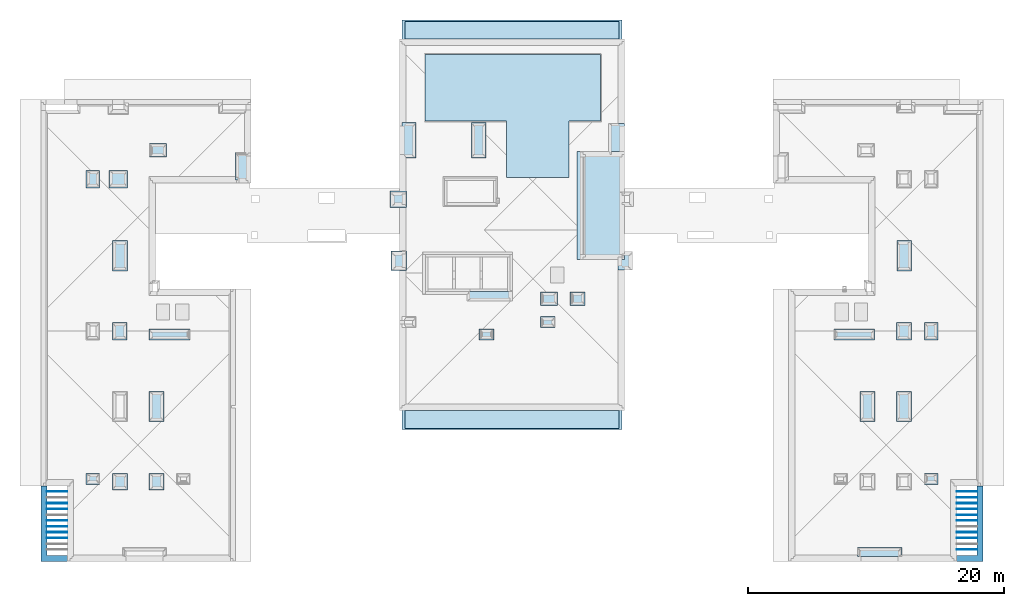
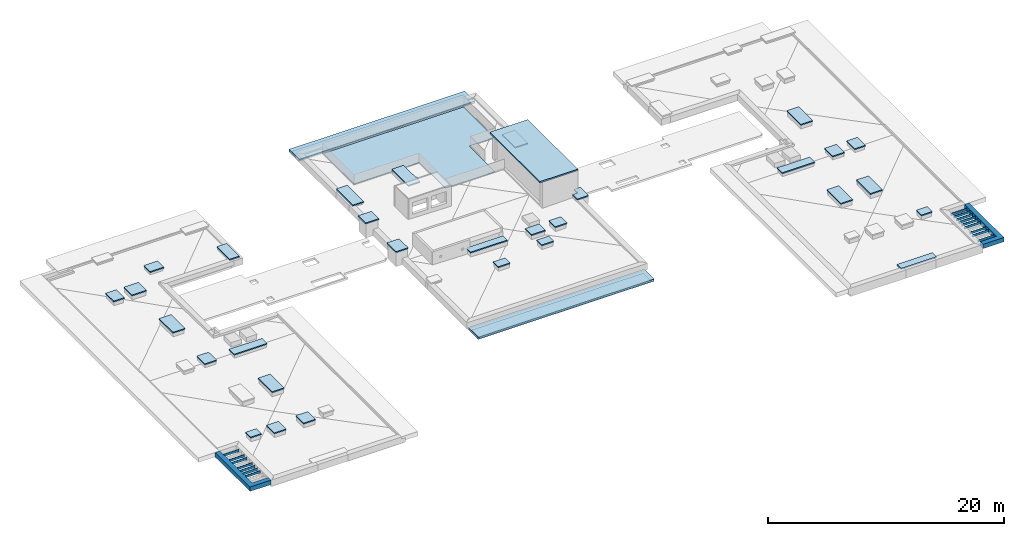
# One storey, part 1 of 16: 38 slabs, 16 beams.
"""IFC2X3 building model written with IfcOpenShell, lengths in millimetres."""

import ifcopenshell
import ifcopenshell.guid

model = None  # the IFC model being written
_history = None  # IfcOwnerHistory: only IFC2X3 demands one
_inside = {}  # id of a spatial element -> (the spatial element, [elements in it])
_under = {}  # id of a project, library or spatial element -> (it, [spatial elements below it])
_declared = {}  # id of a project -> (the project, [libraries it declares])
_typed = {}  # id of a type object -> (the type object, [elements of that type])
_made_of = {}  # id of a material, layer set ... -> (it, [elements and type objects made of it])


def new_model(schema):
    """Start an empty IFC model of exactly this schema.

    Asked for "IFC4X3", IfcOpenShell would pick the latest addendum, in which some entities
    have other attributes; the version numbers below select the first issue.
    IFC2X3 requires an IfcOwnerHistory on every rooted entity: one is made here for all.
    """
    global model, _history
    if schema == "IFC4X3":
        model = ifcopenshell.file(schema_version=(4, 3, 0, 0))
    else:
        model = ifcopenshell.file(schema=schema)
    _inside.clear()
    _under.clear()
    _declared.clear()
    _typed.clear()
    _made_of.clear()
    _history = None
    if model.schema == "IFC2X3":
        org = make("IfcOrganization", Name="unknown")
        user = make(
            "IfcPersonAndOrganization",
            ThePerson=make("IfcPerson", FamilyName="unknown"),
            TheOrganization=org,
        )
        app = make(
            "IfcApplication",
            ApplicationDeveloper=org,
            Version="unknown",
            ApplicationFullName="unknown",
            ApplicationIdentifier="unknown",
        )
        _history = make(
            "IfcOwnerHistory",
            OwningUser=user,
            OwningApplication=app,
            ChangeAction="ADDED",
            CreationDate=0,
        )
    return model


def make(cls, **values):
    """One entity of the class cls with the attributes given. An attribute that is None is left unset."""
    return model.create_entity(
        cls, **{name: value for name, value in values.items() if value is not None}
    )


def entity(cls, *values):
    """Any entity or typed value of the class cls, its attributes in the order of the schema. None: left unset."""
    e = model.create_entity(cls)
    for i, value in enumerate(values):
        if value is not None:
            e[i] = value
    return e


def rooted(cls, **values):
    """An entity with a GlobalId (a new one), such as an element, a storey or a relation."""
    return make(cls, GlobalId=ifcopenshell.guid.new(), OwnerHistory=_history, **values)


def si_unit(unit_type, name, prefix=None):
    """IfcSIUnit, for example si_unit("LENGTHUNIT", "METRE", prefix="MILLI")."""
    return make("IfcSIUnit", UnitType=unit_type, Prefix=prefix, Name=name)


def converted_unit(unit_type, name, factor, base, dimensions=None, offset=None):
    """IfcConversionBasedUnit, such as the inch: factor (a typed value) times the base unit."""
    return make(
        "IfcConversionBasedUnit"
        if offset is None
        else "IfcConversionBasedUnitWithOffset",
        ConversionOffset=offset,
        Dimensions=None
        if dimensions is None
        else entity("IfcDimensionalExponents", *dimensions),
        UnitType=unit_type,
        Name=name,
        ConversionFactor=make(
            "IfcMeasureWithUnit", ValueComponent=factor, UnitComponent=base
        ),
    )


def derived_unit(unit_type, elements):
    """IfcDerivedUnit: a product of units, each with its exponent."""
    return make(
        "IfcDerivedUnit",
        Elements=[
            make("IfcDerivedUnitElement", Unit=unit, Exponent=power)
            for unit, power in elements
        ],
        UnitType=unit_type,
    )


def money_unit(currency):
    """IfcMonetaryUnit."""
    return make("IfcMonetaryUnit", Currency=currency)


def assignment(units):
    """IfcUnitAssignment: the units of a project."""
    return None if units is None else make("IfcUnitAssignment", Units=units)


def point(xyz):
    """IfcCartesianPoint."""
    return None if xyz is None else make("IfcCartesianPoint", Coordinates=xyz)


def direction(xyz):
    """IfcDirection."""
    return None if xyz is None else make("IfcDirection", DirectionRatios=xyz)


def frame(location, z_axis=None, x_axis=None):
    """IfcAxis2Placement3D, a coordinate frame: its origin and axes. An axis left out is left unset."""
    return make(
        "IfcAxis2Placement3D",
        Location=point(location),
        Axis=direction(z_axis),
        RefDirection=direction(x_axis),
    )


def origin_with_axes():
    """The frame at (0, 0, 0) with the z axis (0, 0, 1) and the x axis (1, 0, 0) written out."""
    return frame((0.0, 0.0, 0.0), z_axis=(0.0, 0.0, 1.0), x_axis=(1.0, 0.0, 0.0))


def place(relative_to, where):
    """IfcLocalPlacement: puts the frame where relative to a parent placement (None: the world)."""
    return make(
        "IfcLocalPlacement", PlacementRelTo=relative_to, RelativePlacement=where
    )


def context(
    kind, dimensions, precision=None, world=None, true_north=None, identifier=None
):
    """IfcGeometricRepresentationContext, for example the 3D "Model" context."""
    return make(
        "IfcGeometricRepresentationContext",
        ContextIdentifier=identifier,
        ContextType=kind,
        CoordinateSpaceDimension=dimensions,
        Precision=precision,
        WorldCoordinateSystem=world,
        TrueNorth=true_north,
    )


def subcontext(parent, identifier, kind, view, scale=None):
    """IfcGeometricRepresentationSubContext, for example "Body" below "Model"."""
    return make(
        "IfcGeometricRepresentationSubContext",
        ContextIdentifier=identifier,
        ContextType=kind,
        ParentContext=parent,
        TargetScale=scale,
        TargetView=view,
    )


def project(units=None, contexts=None):
    """IfcProject with its units and contexts."""
    return rooted(
        "IfcProject",
        Name="project",
        RepresentationContexts=contexts,
        UnitsInContext=assignment(units),
    )


def spatial(cls, under=None, at=None, **own):
    """A site, building, storey or space (cls), placed at a placement, below another one or the project."""
    s = rooted(cls, ObjectPlacement=at, **own)
    if under is not None:
        _under.setdefault(under.id(), (under, []))[1].append(s)
    return s


def polyline(points):
    """IfcPolyline through the points."""
    return make("IfcPolyline", Points=[point(p) for p in points])


def outline(outer, holes=None, kind="AREA"):
    """IfcArbitraryClosedProfileDef: a profile drawn as a closed curve; with holes, ...WithVoids."""
    if holes is None:
        return make("IfcArbitraryClosedProfileDef", ProfileType=kind, OuterCurve=outer)
    return make(
        "IfcArbitraryProfileDefWithVoids",
        ProfileType=kind,
        OuterCurve=outer,
        InnerCurves=holes,
    )


def extrude(swept, where, along, depth):
    """IfcExtrudedAreaSolid: the profile swept, set in the frame where, extruded along a direction by depth."""
    return make(
        "IfcExtrudedAreaSolid",
        SweptArea=swept,
        Position=where,
        ExtrudedDirection=direction(along),
        Depth=depth,
    )


def faces_of(points, faces, orient=None, outer=None):
    """IfcFace entities. A face is a list of loops; a loop is a list of indices into points, from 0.

    orient and outer hold one flag for each loop. By default every Orientation is true, the
    first loop of a face is its IfcFaceOuterBound and the others are IfcFaceBound.
    """
    made = []
    for i, loops in enumerate(faces):
        bounds = []
        for j, loop in enumerate(loops):
            is_outer = j == 0 if outer is None else outer[i][j]
            bounds.append(
                make(
                    "IfcFaceOuterBound" if is_outer else "IfcFaceBound",
                    Bound=make("IfcPolyLoop", Polygon=[points[k] for k in loop]),
                    Orientation=True if orient is None else orient[i][j],
                )
            )
        made.append(make("IfcFace", Bounds=bounds))
    return made


def faceted_brep(points, faces, orient=None, outer=None, voids=None):
    """IfcFacetedBrep: a solid bounded by flat faces; with voids (closed shells), ...WithVoids."""
    shared = [point(p) for p in points]
    hull = make("IfcClosedShell", CfsFaces=faces_of(shared, faces, orient, outer))
    if voids is None:
        return make("IfcFacetedBrep", Outer=hull)
    return make(
        "IfcFacetedBrepWithVoids",
        Outer=hull,
        Voids=[
            make(cls, CfsFaces=faces_of(shared, fs, o, b)) for cls, fs, o, b in voids
        ],
    )


def shape(context_of_items, identifier, shape_type, items):
    """IfcShapeRepresentation: the items that make up one representation, for example the "Body"."""
    return make(
        "IfcShapeRepresentation",
        ContextOfItems=context_of_items,
        RepresentationIdentifier=identifier,
        RepresentationType=shape_type,
        Items=items,
    )


def material(Name=None, Category=None):
    """IfcMaterial."""
    return make("IfcMaterial", Name=Name, Category=Category)


def layer(
    of_material, thickness, ventilated=None, Name=None, Category=None, Priority=None
):
    """IfcMaterialLayer: one layer of a wall or slab, of a material (None: an air gap)."""
    return make(
        "IfcMaterialLayer",
        Material=of_material,
        LayerThickness=thickness,
        IsVentilated=ventilated,
        Name=Name,
        Category=Category,
        Priority=Priority,
    )


def layer_set(layers, Name=None):
    """IfcMaterialLayerSet."""
    return make("IfcMaterialLayerSet", MaterialLayers=layers, LayerSetName=Name)


def layer_usage(for_layer_set, set_direction, sense, offset, extent=None):
    """IfcMaterialLayerSetUsage: how a layer set lies in its element."""
    return make(
        "IfcMaterialLayerSetUsage",
        ForLayerSet=for_layer_set,
        LayerSetDirection=set_direction,
        DirectionSense=sense,
        OffsetFromReferenceLine=offset,
        ReferenceExtent=extent,
    )


def made_of(thing, what):
    """Note that an element or type object is made of a material, layer set ...; save() writes the relation."""
    if what is not None:
        _made_of.setdefault(what.id(), (what, []))[1].append(thing)
    return thing


def type_object(cls, material=None, **own):
    """A type object (cls), such as IfcWallType, which elements share."""
    return made_of(rooted(cls, **own), material)


def element(
    cls,
    number,
    at=None,
    inside=None,
    cuts=None,
    type_object=None,
    material=None,
    context=None,
    identifier="Body",
    shape_type=None,
    held_by="IfcProductDefinitionShape",
    body=None,
    shapes=None,
    **own,
):
    """One element of the class cls, such as IfcWall. Its Tag is "e" and its number.

    at: its placement. inside: the storey or other place that contains it. cuts: it is an
    opening in that element (IfcRelVoidsElement). A single representation is given by context,
    identifier, shape_type and body (its items); several are given by shapes. held_by: the class
    of the entity that holds the representations. save() writes the other relations.
    """
    e = rooted(cls, Tag="e%d" % number, ObjectPlacement=at, **own)
    if body is not None:
        shapes = [shape(context, identifier, shape_type, body)]
    if shapes is not None:
        e.Representation = make(held_by, Representations=shapes)
    if inside is not None:
        _inside.setdefault(inside.id(), (inside, []))[1].append(e)
    if cuts is not None:
        rooted(
            "IfcRelVoidsElement", RelatingBuildingElement=cuts, RelatedOpeningElement=e
        )
    if type_object is not None:
        _typed.setdefault(type_object.id(), (type_object, []))[1].append(e)
    return made_of(e, material)


def aggregate(whole, parts):
    """IfcRelAggregates: a whole, such as a stair, and the parts it consists of."""
    return rooted("IfcRelAggregates", RelatingObject=whole, RelatedObjects=parts)


def save(model, path):
    """Write the relations noted so far, then the file.

    IfcRelAggregates (storeys below a building ...), IfcRelContainedInSpatialStructure (elements
    in a storey), IfcRelDefinesByType, IfcRelAssociatesMaterial and IfcRelDeclares: one each for
    every whole, place, type object, material and project.
    """
    for whole, parts in _under.values():
        aggregate(whole, parts)
    for where, things in _inside.values():
        rooted(
            "IfcRelContainedInSpatialStructure",
            RelatedElements=things,
            RelatingStructure=where,
        )
    for kind, things in _typed.values():
        rooted("IfcRelDefinesByType", RelatedObjects=things, RelatingType=kind)
    for what, things in _made_of.values():
        rooted("IfcRelAssociatesMaterial", RelatedObjects=things, RelatingMaterial=what)
    for by, libraries in _declared.values():
        rooted("IfcRelDeclares", RelatingContext=by, RelatedDefinitions=libraries)
    model.write(path)


model = new_model("IFC2X3")

# Units and contexts
model_context = context("Model", 3, precision=0.01, world=origin_with_axes(), true_north=direction((0.34421633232, 0.938890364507)))
body_context = subcontext(model_context, "Body", "Model", "MODEL_VIEW")
ifc_project = project(units=[si_unit("LENGTHUNIT", "METRE", prefix="MILLI"), si_unit("AREAUNIT", "SQUARE_METRE"), si_unit("VOLUMEUNIT", "CUBIC_METRE"), converted_unit("PLANEANGLEUNIT", "DEGREE", entity("IfcPlaneAngleMeasure", 0.0174532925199), si_unit("PLANEANGLEUNIT", "RADIAN"), dimensions=[0, 0, 0, 0, 0, 0, 0]), si_unit("SOLIDANGLEUNIT", "STERADIAN"), money_unit("USD"), converted_unit("TIMEUNIT", "Year", entity("IfcTimeMeasure", 31556926.0), si_unit("TIMEUNIT", "SECOND"), dimensions=[0, 0, 1, 0, 0, 0, 0]), si_unit("MASSUNIT", "GRAM", prefix="KILO"), si_unit("THERMODYNAMICTEMPERATUREUNIT", "DEGREE_CELSIUS"), si_unit("LUMINOUSINTENSITYUNIT", "LUMEN"), si_unit("ENERGYUNIT", "JOULE", prefix="MEGA"), derived_unit("THERMALCONDUCTANCEUNIT", [(si_unit("POWERUNIT", "WATT"), 1), (si_unit("LENGTHUNIT", "METRE"), -1), (si_unit("THERMODYNAMICTEMPERATUREUNIT", "KELVIN"), -1)]), derived_unit("SPECIFICHEATCAPACITYUNIT", [(si_unit("ENERGYUNIT", "JOULE"), 1), (si_unit("MASSUNIT", "GRAM", prefix="KILO"), -1), (si_unit("THERMODYNAMICTEMPERATUREUNIT", "KELVIN"), -1)]), derived_unit("MASSDENSITYUNIT", [(si_unit("MASSUNIT", "GRAM", prefix="KILO"), 1), (si_unit("VOLUMEUNIT", "CUBIC_METRE"), -1)])], contexts=[model_context])

# Site, building, storey
site_placement = place(None, origin_with_axes())
site = spatial("IfcSite", under=ifc_project, at=site_placement, Name="USTRONIE MORSKIE", CompositionType="ELEMENT")
building_placement = place(site_placement, origin_with_axes())
building = spatial("IfcBuilding", under=site, at=building_placement, Name="Budynek", CompositionType="ELEMENT")
storey_placement = place(building_placement, frame((0.0, 0.0, 19000.0), z_axis=(0.0, 0.0, 1.0), x_axis=(1.0, 0.0, 0.0)))
storey = spatial("IfcBuildingStorey", under=building, at=storey_placement, Name="DACH", CompositionType="ELEMENT", Elevation=19000.0)

# Beams
ifc_material_1 = material(Name="Laminat")
beam_type_1 = type_object("IfcBeamType", Name="Laminat 50 x 250", PredefinedType="NOTDEFINED")
for number, where, z_axis, x_axis, name in (
    (1, (422617.920919, 713438.689058, 400.0), (0.0, 0.0, 1.0), (0.0, -1.0, 0.0), "B1"),
    (2, (422617.920919, 714347.029041, 400.0), (0.0, 0.0, 1.0), (0.0, -1.0, 0.0), "B1"),
    (3, (422617.920919, 712530.349074, 400.0), (0.0, 0.0, 1.0), (0.0, -1.0, 0.0), "B1"),
    (4, (422617.920919, 710713.669107, 400.0), (0.0, 0.0, 1.0), (0.0, -1.0, 0.0), "B1"),
    (5, (422617.920919, 709805.329123, 400.0), (0.0, 0.0, 1.0), (0.0, -1.0, 0.0), "B1"),
    (6, (422617.920919, 711167.839099, 400.0), (0.0, 0.0, 1.0), (0.0, -1.0, 0.0), "B1"),
    (7, (422617.920919, 712076.179082, 400.0), (0.0, 0.0, 1.0), (0.0, -1.0, 0.0), "B1"),
    (8, (422617.920919, 713892.859049, 400.0), (0.0, 0.0, 1.0), (0.0, -1.0, 0.0), "B1"),
    (9, (422617.920919, 712984.519066, 400.0), (0.0, 0.0, 1.0), (0.0, -1.0, 0.0), "B1"),
):
    element("IfcBeam", number, at=place(storey_placement, frame(where, z_axis=z_axis, x_axis=x_axis)), inside=storey, type_object=beam_type_1, material=ifc_material_1, Name=name, context=body_context, shape_type="Brep", body=[
        faceted_brep([(-25.0, 1600.0, 0.0), (-25.0, 1600.0, -250.0), (-25.0, 10.0000000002, -250.0), (-25.0, 10.0000000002, 0.0), (25.0, 1600.0, 0.0), (25.0, 1600.0, -250.0), (25.0, 10.0000000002, -250.0), (25.0, 10.0000000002, 0.0)], [[[0, 1, 2, 3]], [[0, 4, 5, 1]], [[1, 5, 6, 2]], [[2, 6, 7, 3]], [[4, 0, 3, 7]], [[5, 4, 7, 6]]]),
    ])
beam_type_2 = type_object("IfcBeamType", Name="Własny Profil 50 x 250", PredefinedType="NOTDEFINED")
for number, where, z_axis, x_axis, name in (
    (10, (353017.920919, 713438.689058, 400.0), (0.0, 0.0, 1.0), (0.0, 1.0, 0.0), "B1"),
    (11, (353017.920919, 711622.00909, 400.0), (0.0, 0.0, 1.0), (0.0, 1.0, 0.0), "B1"),
    (12, (353017.920919, 712984.519066, 400.0), (0.0, 0.0, 1.0), (0.0, 1.0, 0.0), "B1"),
    (13, (353017.920919, 710713.669107, 400.0), (0.0, 0.0, 1.0), (0.0, 1.0, 0.0), "B1"),
    (14, (353017.920919, 712076.179082, 400.0), (0.0, 0.0, 1.0), (0.0, 1.0, 0.0), "B1"),
    (15, (353017.920919, 714347.029041, 400.0), (0.0, 0.0, 1.0), (0.0, 1.0, 0.0), "B1"),
    (16, (353017.920919, 711167.839099, 400.0), (0.0, 0.0, 1.0), (0.0, 1.0, 0.0), "B1"),
):
    element("IfcBeam", number, at=place(storey_placement, frame(where, z_axis=z_axis, x_axis=x_axis)), inside=storey, type_object=beam_type_2, material=ifc_material_1, Name=name, context=body_context, shape_type="Brep", body=[
        faceted_brep([(25.0, 1600.0, 0.0), (-25.0, 1600.0, 0.0), (-25.0, 10.0000000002, 0.0), (25.0, 10.0000000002, 0.0), (25.0, 1600.0, -250.0), (-25.0, 1600.0, -250.0), (-25.0, 10.0000000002, -250.0), (25.0, 10.0000000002, -250.0)], [[[0, 1, 2, 3]], [[4, 5, 1, 0]], [[1, 5, 6, 2]], [[2, 6, 7, 3]], [[4, 0, 3, 7]], [[5, 4, 7, 6]]]),
    ])

# Slabs
ifc_material_2 = material(Name="Beton konstrukcyjny B25")
slab_type_1 = type_object("IfcSlabType", Name="Beton konstrukcyjny B25 120", PredefinedType="FLOOR")
slab_1_placement = place(storey_placement, frame((415037.920919, 719821.199036, 760.000001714), z_axis=(0.0, 0.0, 1.0), x_axis=(1.0, 0.0, 0.0)))
element("IfcSlab", 17, at=slab_1_placement, inside=storey, type_object=slab_type_1, material=ifc_material_2, Name="P3", PredefinedType="FLOOR", context=body_context, shape_type="Brep", body=[
    faceted_brep([(0.0, 0.0, 0.0), (0.0, 0.0, -120.0), (1180.00339275, 0.0, -120.0), (1180.00339275, 0.0, 0.0), (0.0, 2360.0, 0.0), (0.0, 2360.0, -120.0), (1180.00339275, 2360.0, -120.0), (1180.00339275, 2360.0, 0.0)], [[[0, 1, 2, 3]], [[4, 5, 1, 0]], [[2, 1, 5, 6]], [[3, 2, 6, 7]], [[4, 0, 3, 7]], [[7, 6, 5, 4]]]),
])
slab_2_placement = place(storey_placement, frame((417917.920942, 719821.199036, 760.000001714), z_axis=(0.0, 0.0, 1.0), x_axis=(1.0, 0.0, 0.0)))
element("IfcSlab", 18, at=slab_2_placement, inside=storey, type_object=slab_type_1, material=ifc_material_2, Name="P3", PredefinedType="FLOOR", context=body_context, shape_type="Brep", body=[
    faceted_brep([(0.0, 0.0, 0.0), (0.0, 0.0, -120.0), (1179.99997673, 0.0, -120.0), (1179.99997673, 0.0, 0.0), (0.0, 2360.0, 0.0), (0.0, 2360.0, -120.0), (1179.99997673, 2360.0, -120.0), (1179.99997673, 2360.0, 0.0)], [[[0, 1, 2, 3]], [[4, 5, 1, 0]], [[2, 1, 5, 6]], [[3, 2, 6, 7]], [[4, 0, 3, 7]], [[7, 6, 5, 4]]]),
])
slab_3_placement = place(storey_placement, frame((412997.920919, 727081.201317, 760.000001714), z_axis=(0.0, 0.0, 1.0), x_axis=(1.0, 0.0, 0.0)))
element("IfcSlab", 19, at=slab_3_placement, inside=storey, type_object=slab_type_1, material=ifc_material_2, Name="P3", PredefinedType="FLOOR", context=body_context, shape_type="Brep", body=[
    faceted_brep([(0.0, 0.0, 0.0), (0.0, 0.0, -120.0), (0.0, -860.008836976, -120.0), (0.0, -860.008836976, 0.0), (3199.99841571, 0.0, 0.0), (3199.99841571, 0.0, -120.0), (3199.99841571, -860.008836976, -120.0), (3199.99841571, -860.008836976, 0.0)], [[[0, 1, 2, 3]], [[4, 5, 1, 0]], [[2, 1, 5, 6]], [[3, 2, 6, 7]], [[4, 0, 3, 7]], [[7, 6, 5, 4]]]),
])
slab_4_placement = place(storey_placement, frame((417937.920942, 731621.199036, 760.000001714), z_axis=(0.0, 0.0, 1.0), x_axis=(1.0, 0.0, 0.0)))
element("IfcSlab", 20, at=slab_4_placement, inside=storey, type_object=slab_type_1, material=ifc_material_2, Name="P3", PredefinedType="FLOOR", context=body_context, shape_type="Brep", body=[
    faceted_brep([(0.0, 0.0, 0.0), (0.0, 0.0, -120.0), (1159.99997673, 0.0, -120.0), (1159.99997673, 0.0, 0.0), (0.0, 2360.0, 0.0), (0.0, 2360.0, -120.0), (1159.99997673, 2360.0, -120.0), (1159.99997673, 2360.0, 0.0)], [[[0, 1, 2, 3]], [[4, 5, 1, 0]], [[2, 1, 5, 6]], [[3, 2, 6, 7]], [[4, 0, 3, 7]], [[7, 6, 5, 4]]]),
])
slab_5_placement = place(storey_placement, frame((417917.920919, 727581.19248, 760.000001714), z_axis=(0.0, 0.0, 1.0), x_axis=(1.0, 0.0, 0.0)))
element("IfcSlab", 21, at=slab_5_placement, inside=storey, type_object=slab_type_1, material=ifc_material_2, Name="P3", PredefinedType="FLOOR", context=body_context, shape_type="Brep", body=[
    faceted_brep([(0.0, 0.0, 0.0), (0.0, 0.0, -120.0), (0.0, -1360.0, -120.0), (0.0, -1360.0, 0.0), (1180.0, 0.0, 0.0), (1180.0, 0.0, -120.0), (1180.0, -1360.0, -120.0), (1180.0, -1360.0, 0.0)], [[[0, 1, 2, 3]], [[4, 5, 1, 0]], [[2, 1, 5, 6]], [[3, 2, 6, 7]], [[4, 0, 3, 7]], [[7, 6, 5, 4]]]),
])
slab_6_placement = place(storey_placement, frame((420077.920914, 726221.199036, 760.000001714), z_axis=(0.0, 0.0, 1.0), x_axis=(1.0, 0.0, 0.0)))
element("IfcSlab", 22, at=slab_6_placement, inside=storey, type_object=slab_type_1, material=ifc_material_2, Name="P3", PredefinedType="FLOOR", context=body_context, shape_type="Brep", body=[
    faceted_brep([(0.0, 0.0, 0.0), (0.0, 0.0, -120.0), (1060.0000054, 0.0, -120.0), (1060.0000054, 0.0, 0.0), (0.0, 1360.01915523, 0.0), (0.0, 1360.01915523, -120.0), (1060.0000054, 1360.01915523, -120.0), (1060.0000054, 1360.01915523, 0.0)], [[[0, 1, 2, 3]], [[4, 5, 1, 0]], [[2, 1, 5, 6]], [[3, 2, 6, 7]], [[4, 0, 3, 7]], [[7, 6, 5, 4]]]),
])
slab_7_placement = place(storey_placement, frame((414837.920919, 709981.199036, 500.0), z_axis=(0.0, 0.0, 1.0), x_axis=(1.0, 0.0, 0.0)))
element("IfcSlab", 23, at=slab_7_placement, inside=storey, type_object=slab_type_1, material=ifc_material_2, Name="P3", PredefinedType="FLOOR", context=body_context, shape_type="Brep", body=[
    faceted_brep([(0.0, 0.0, 0.0), (0.0, 0.0, -120.0), (0.0, -700.0, -120.0), (0.0, -700.0, 0.0), (3479.99841602, 0.0, 0.0), (3479.99841602, 0.0, -120.0), (3479.99841602, -700.0, -120.0), (3479.99841602, -700.0, 0.0)], [[[0, 1, 2, 3]], [[4, 5, 1, 0]], [[2, 1, 5, 6]], [[3, 2, 6, 7]], [[4, 0, 3, 7]], [[7, 6, 5, 4]]]),
])
slab_8_placement = place(storey_placement, frame((390037.920919, 727171.199036, 760.000001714), z_axis=(0.0, 0.0, 1.0), x_axis=(1.0, 0.0, 0.0)))
element("IfcSlab", 24, at=slab_8_placement, inside=storey, type_object=slab_type_1, material=ifc_material_2, Name="P3", PredefinedType="FLOOR", context=body_context, shape_type="Brep", body=[
    faceted_brep([(0.0, 0.0, 0.0), (0.0, 0.0, -120.0), (1160.0, 0.0, -120.0), (1160.0, 0.0, 0.0), (0.0, 860.0, 0.0), (0.0, 860.0, -120.0), (1160.0, 860.0, -120.0), (1160.0, 860.0, 0.0)], [[[0, 1, 2, 3]], [[4, 5, 1, 0]], [[2, 1, 5, 6]], [[3, 2, 6, 7]], [[4, 0, 3, 7]], [[7, 6, 5, 4]]]),
])
slab_9_placement = place(storey_placement, frame((392357.920919, 728921.199036, 760.000001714), z_axis=(0.0, 0.0, 1.0), x_axis=(1.0, 0.0, 0.0)))
element("IfcSlab", 25, at=slab_9_placement, inside=storey, type_object=slab_type_1, material=ifc_material_2, Name="P3", PredefinedType="FLOOR", context=body_context, shape_type="Brep", body=[
    faceted_brep([(0.0, 0.0, 0.0), (0.0, 0.0, -120.0), (1160.0, 0.0, -120.0), (1160.0, 0.0, 0.0), (0.0, 1060.0, 0.0), (0.0, 1060.0, -120.0), (1160.0, 1060.0, -120.0), (1160.0, 1060.0, 0.0)], [[[0, 1, 2, 3]], [[4, 5, 1, 0]], [[2, 1, 5, 6]], [[3, 2, 6, 7]], [[4, 0, 3, 7]], [[7, 6, 5, 4]]]),
])
slab_10_placement = place(storey_placement, frame((366187.920919, 738731.199036, 620.0), z_axis=(0.0, 0.0, 1.0), x_axis=(1.0, 0.0, 0.0)))
element("IfcSlab", 26, at=slab_10_placement, inside=storey, type_object=slab_type_1, material=ifc_material_2, Name="P3", PredefinedType="FLOOR", context=body_context, shape_type="Brep", body=[
    faceted_brep([(0.0, 0.0, 0.0), (0.0, 0.0, -120.0), (950.0, 0.0, -120.0), (950.0, 0.0, 0.0), (0.0, 2169.98043997, 0.0), (0.0, 2169.98043997, -120.0), (950.0, 2169.98043997, -120.0), (950.0, 2169.98043997, 0.0)], [[[0, 1, 2, 3]], [[4, 5, 1, 0]], [[2, 1, 5, 6]], [[3, 2, 6, 7]], [[4, 0, 3, 7]], [[7, 6, 5, 4]]]),
])
slab_11_placement = place(storey_placement, frame((378257.937739, 736591.199036, 1440.0), z_axis=(0.0, 0.0, 1.0), x_axis=(1.0, 0.0, 0.0)))
element("IfcSlab", 27, at=slab_11_placement, inside=storey, type_object=slab_type_1, material=ifc_material_2, Name="P3", PredefinedType="FLOOR", context=body_context, shape_type="Brep", body=[
    faceted_brep([(0.0, 0.0, 0.0), (0.0, 0.0, -120.0), (1299.98317971, 0.0, -120.0), (1299.98317971, 0.0, 0.0), (0.0, 1270.00325193, 0.0), (0.0, 1270.00325193, -120.0), (1299.98317971, 1270.00325193, -120.0), (1299.98317971, 1270.00325193, 0.0)], [[[0, 1, 2, 3]], [[4, 5, 1, 0]], [[2, 1, 5, 6]], [[3, 2, 6, 7]], [[4, 0, 3, 7]], [[7, 6, 5, 4]]]),
])
slab_12_placement = place(storey_placement, frame((378357.924635, 731651.199132, 1440.0), z_axis=(0.0, 0.0, 1.0), x_axis=(1.0, 0.0, 0.0)))
element("IfcSlab", 28, at=slab_12_placement, inside=storey, type_object=slab_type_1, material=ifc_material_2, Name="P3", PredefinedType="FLOOR", context=body_context, shape_type="Brep", body=[
    faceted_brep([(0.0, 0.0, 0.0), (0.0, 0.0, -120.0), (1199.9962835, 0.0, -120.0), (1199.9962835, 0.0, 0.0), (0.0, 1519.99990367, 0.0), (0.0, 1519.99990367, -120.0), (1199.9962835, 1519.99990367, -120.0), (1199.9962835, 1519.99990367, 0.0)], [[[0, 1, 2, 3]], [[4, 5, 1, 0]], [[2, 1, 5, 6]], [[3, 2, 6, 7]], [[4, 0, 3, 7]], [[7, 6, 5, 4]]]),
])
slab_13_placement = place(storey_placement, frame((385237.921074, 726226.199036, 760.000001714), z_axis=(0.0, 0.0, 1.0), x_axis=(1.0, 0.0, 0.0)))
element("IfcSlab", 29, at=slab_13_placement, inside=storey, type_object=slab_type_1, material=ifc_material_2, Name="P3", PredefinedType="FLOOR", context=body_context, shape_type="Brep", body=[
    faceted_brep([(0.0, 0.0, 0.0), (0.0, 0.0, -120.0), (1160.0, 0.0, -120.0), (1160.0, 0.0, 0.0), (0.0, 860.0, 0.0), (0.0, 860.0, -120.0), (1160.0, 860.0, -120.0), (1160.0, 860.0, 0.0)], [[[0, 1, 2, 3]], [[4, 5, 1, 0]], [[2, 1, 5, 6]], [[3, 2, 6, 7]], [[4, 0, 3, 7]], [[7, 6, 5, 4]]]),
])
slab_14_placement = place(storey_placement, frame((390037.920919, 728921.199036, 760.000001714), z_axis=(0.0, 0.0, 1.0), x_axis=(1.0, 0.0, 0.0)))
element("IfcSlab", 30, at=slab_14_placement, inside=storey, type_object=slab_type_1, material=ifc_material_2, Name="P3", PredefinedType="FLOOR", context=body_context, shape_type="Brep", body=[
    faceted_brep([(0.0, 0.0, 0.0), (0.0, 0.0, -120.0), (1360.0, 0.0, -120.0), (1360.0, 0.0, 0.0), (0.0, 1060.0, 0.0), (0.0, 1060.0, -120.0), (1360.0, 1060.0, -120.0), (1360.0, 1060.0, 0.0)], [[[0, 1, 2, 3]], [[4, 5, 1, 0]], [[2, 1, 5, 6]], [[3, 2, 6, 7]], [[4, 0, 3, 7]], [[7, 6, 5, 4]]]),
])
slab_15_placement = place(storey_placement, frame((396627.920919, 740951.199036, 620.0), z_axis=(0.0, 0.0, 1.0), x_axis=(1.0, 0.0, 0.0)))
element("IfcSlab", 31, at=slab_15_placement, inside=storey, type_object=slab_type_1, material=ifc_material_2, Name="P3", PredefinedType="FLOOR", context=body_context, shape_type="Brep", body=[
    faceted_brep([(0.0, 0.0, 0.0), (0.0, 0.0, -120.0), (0.0, 2220.27756318, -120.0), (0.0, 2220.27756318, 0.0), (-1240.0111018, 0.0, 0.0), (-1240.0111018, 0.0, -120.0), (-1240.0111018, 2220.27756318, -120.0), (-1240.0111018, 2220.27756318, 0.0)], [[[0, 1, 2, 3]], [[4, 5, 1, 0]], [[2, 1, 5, 6]], [[3, 2, 6, 7]], [[4, 0, 3, 7]], [[7, 6, 5, 4]]]),
])
slab_16_placement = place(storey_placement, frame((379217.920919, 740441.199036, 620.0), z_axis=(0.0, 0.0, 1.0), x_axis=(1.0, 0.0, 0.0)))
element("IfcSlab", 32, at=slab_16_placement, inside=storey, type_object=slab_type_1, material=ifc_material_2, Name="P3", PredefinedType="FLOOR", context=body_context, shape_type="Brep", body=[
    faceted_brep([(0.0, 0.0, 0.0), (0.0, 0.0, -120.0), (1080.00340741, 0.0, -120.0), (1080.00340741, 0.0, 0.0), (0.0, 2779.99998521, 0.0), (0.0, 2779.99998521, -120.0), (1080.00340741, 2779.99998521, -120.0), (1080.00340741, 2779.99998521, 0.0)], [[[0, 1, 2, 3]], [[4, 5, 1, 0]], [[2, 1, 5, 6]], [[3, 2, 6, 7]], [[4, 0, 3, 7]], [[7, 6, 5, 4]]]),
])
slab_17_placement = place(storey_placement, frame((360597.920919, 719821.199036, 760.000001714), z_axis=(0.0, 0.0, 1.0), x_axis=(1.0, 0.0, 0.0)))
element("IfcSlab", 33, at=slab_17_placement, inside=storey, type_object=slab_type_1, material=ifc_material_2, Name="P3", PredefinedType="FLOOR", context=body_context, shape_type="Brep", body=[
    faceted_brep([(0.0, 0.0, 0.0), (0.0, 0.0, -120.0), (0.0, 2360.0, -120.0), (0.0, 2360.0, 0.0), (-1180.00339275, 0.0, 0.0), (-1180.00339275, 0.0, -120.0), (-1180.00339275, 2360.0, -120.0), (-1180.00339275, 2360.0, 0.0)], [[[0, 1, 2, 3]], [[4, 5, 1, 0]], [[2, 1, 5, 6]], [[3, 2, 6, 7]], [[4, 0, 3, 7]], [[7, 6, 5, 4]]]),
])
slab_18_placement = place(storey_placement, frame((357717.920919, 738121.205592, 760.000001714), z_axis=(0.0, 0.0, 1.0), x_axis=(1.0, 0.0, 0.0)))
element("IfcSlab", 34, at=slab_18_placement, inside=storey, type_object=slab_type_1, material=ifc_material_2, Name="P3", PredefinedType="FLOOR", context=body_context, shape_type="Brep", body=[
    faceted_brep([(0.0, 0.0, 0.0), (0.0, 0.0, -120.0), (0.0, 1360.0, -120.0), (0.0, 1360.0, 0.0), (-1430.0, 0.0, 0.0), (-1430.0, 0.0, -120.0), (-1430.0, 1360.0, -120.0), (-1430.0, 1360.0, 0.0)], [[[0, 1, 2, 3]], [[4, 5, 1, 0]], [[2, 1, 5, 6]], [[3, 2, 6, 7]], [[4, 0, 3, 7]], [[7, 6, 5, 4]]]),
])
slab_19_placement = place(storey_placement, frame((384637.920919, 740441.199036, 760.000001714), z_axis=(0.0, 0.0, 1.0), x_axis=(1.0, 0.0, 0.0)))
element("IfcSlab", 35, at=slab_19_placement, inside=storey, type_object=slab_type_1, material=ifc_material_2, Name="P3", PredefinedType="FLOOR", context=body_context, shape_type="Brep", body=[
    faceted_brep([(0.0, 0.0, 0.0), (0.0, 0.0, -120.0), (1160.0, 0.0, -120.0), (1160.0, 0.0, 0.0), (0.0, 2779.99908404, 0.0), (0.0, 2779.99908404, -120.0), (1160.0, 2779.99908404, -120.0), (1160.0, 2779.99908404, 0.0)], [[[0, 1, 2, 3]], [[4, 5, 1, 0]], [[2, 1, 5, 6]], [[3, 2, 6, 7]], [[4, 0, 3, 7]], [[7, 6, 5, 4]]]),
])
slab_20_placement = place(storey_placement, frame((355557.920919, 714921.192571, 760.000001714), z_axis=(0.0, 0.0, 1.0), x_axis=(1.0, 0.0, 0.0)))
element("IfcSlab", 36, at=slab_20_placement, inside=storey, type_object=slab_type_1, material=ifc_material_2, Name="P3", PredefinedType="FLOOR", context=body_context, shape_type="Brep", body=[
    faceted_brep([(0.0, 0.0, 0.0), (0.0, 0.0, -120.0), (0.0, 860.006452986, -120.0), (0.0, 860.006452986, 0.0), (-1059.99841602, 0.0, 0.0), (-1059.99841602, 0.0, -120.0), (-1059.99841602, 860.006452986, -120.0), (-1059.99841602, 860.006452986, 0.0)], [[[0, 1, 2, 3]], [[4, 5, 1, 0]], [[2, 1, 5, 6]], [[3, 2, 6, 7]], [[4, 0, 3, 7]], [[7, 6, 5, 4]]]),
])
slab_21_placement = place(storey_placement, frame((360597.920919, 715781.199481, 760.000001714), z_axis=(0.0, 0.0, 1.0), x_axis=(1.0, 0.0, 0.0)))
element("IfcSlab", 37, at=slab_21_placement, inside=storey, type_object=slab_type_1, material=ifc_material_2, Name="P3", PredefinedType="FLOOR", context=body_context, shape_type="Brep", body=[
    faceted_brep([(0.0, 0.0, 0.0), (0.0, 0.0, -120.0), (-1179.99841602, 0.0, -120.0), (-1179.99841602, 0.0, 0.0), (0.0, -1310.00883698, 0.0), (0.0, -1310.00883698, -120.0), (-1179.99841602, -1310.00883698, -120.0), (-1179.99841602, -1310.00883698, 0.0)], [[[0, 1, 2, 3]], [[4, 5, 1, 0]], [[2, 1, 5, 6]], [[3, 2, 6, 7]], [[4, 0, 3, 7]], [[7, 6, 5, 4]]]),
])
slab_22_placement = place(storey_placement, frame((360797.920919, 740521.171911, 620.0), z_axis=(0.0, 0.0, 1.0), x_axis=(1.0, 0.0, 0.0)))
element("IfcSlab", 38, at=slab_22_placement, inside=storey, type_object=slab_type_1, material=ifc_material_2, Name="P3", PredefinedType="FLOOR", context=body_context, shape_type="Brep", body=[
    faceted_brep([(0.0, 0.0, 0.0), (0.0, 0.0, -120.0), (0.0, 1060.00883698, -120.0), (0.0, 1060.00883698, 0.0), (-1360.0, 0.0, 0.0), (-1360.0, 0.0, -120.0), (-1360.0, 1060.00883698, -120.0), (-1360.0, 1060.00883698, 0.0)], [[[0, 1, 2, 3]], [[4, 5, 1, 0]], [[2, 1, 5, 6]], [[3, 2, 6, 7]], [[4, 0, 3, 7]], [[7, 6, 5, 4]]]),
])
slab_23_placement = place(storey_placement, frame((357697.920919, 727581.19248, 760.000001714), z_axis=(0.0, 0.0, 1.0), x_axis=(1.0, 0.0, 0.0)))
element("IfcSlab", 39, at=slab_23_placement, inside=storey, type_object=slab_type_1, material=ifc_material_2, Name="P3", PredefinedType="FLOOR", context=body_context, shape_type="Brep", body=[
    faceted_brep([(0.0, 0.0, 0.0), (0.0, 0.0, -120.0), (-1160.0, 0.0, -120.0), (-1160.0, 0.0, 0.0), (0.0, -1360.0, 0.0), (0.0, -1360.0, -120.0), (-1160.0, -1360.0, -120.0), (-1160.0, -1360.0, 0.0)], [[[0, 1, 2, 3]], [[4, 5, 1, 0]], [[2, 1, 5, 6]], [[3, 2, 6, 7]], [[4, 0, 3, 7]], [[7, 6, 5, 4]]]),
])
slab_24_placement = place(storey_placement, frame((384287.920018, 729261.199036, 760.000001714), z_axis=(0.0, 0.0, 1.0), x_axis=(1.0, 0.0, 0.0)))
element("IfcSlab", 40, at=slab_24_placement, inside=storey, type_object=slab_type_1, material=ifc_material_2, Name="P3", PredefinedType="FLOOR", context=body_context, shape_type="Brep", body=[
    faceted_brep([(0.0, 0.0, 0.0), (0.0, 0.0, -120.0), (3581.44933871, 0.0, -120.0), (3581.44933871, 0.0, 0.0), (0.0, 729.999988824, 0.0), (0.0, 729.999988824, -120.0), (3581.44933871, 729.999988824, -120.0), (3581.44933871, 729.999988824, 0.0)], [[[0, 1, 2, 3]], [[4, 5, 1, 0]], [[2, 1, 5, 6]], [[3, 2, 6, 7]], [[4, 0, 3, 7]], [[7, 6, 5, 4]]]),
])
slab_25_placement = place(storey_placement, frame((420077.920919, 714921.192571, 760.000001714), z_axis=(0.0, 0.0, 1.0), x_axis=(1.0, 0.0, 0.0)))
element("IfcSlab", 41, at=slab_25_placement, inside=storey, type_object=slab_type_1, material=ifc_material_2, Name="P3", PredefinedType="FLOOR", context=body_context, shape_type="Brep", body=[
    faceted_brep([(0.0, 0.0, 0.0), (0.0, 0.0, -120.0), (1059.99841602, 0.0, -120.0), (1059.99841602, 0.0, 0.0), (0.0, 860.006452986, 0.0), (0.0, 860.006452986, -120.0), (1059.99841602, 860.006452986, -120.0), (1059.99841602, 860.006452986, 0.0)], [[[0, 1, 2, 3]], [[4, 5, 1, 0]], [[2, 1, 5, 6]], [[3, 2, 6, 7]], [[4, 0, 3, 7]], [[7, 6, 5, 4]]]),
])
slab_26_placement = place(storey_placement, frame((362637.920919, 727081.201317, 760.000001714), z_axis=(0.0, 0.0, 1.0), x_axis=(1.0, 0.0, 0.0)))
element("IfcSlab", 42, at=slab_26_placement, inside=storey, type_object=slab_type_1, material=ifc_material_2, Name="P3", PredefinedType="FLOOR", context=body_context, shape_type="Brep", body=[
    faceted_brep([(0.0, 0.0, 0.0), (0.0, 0.0, -120.0), (-3219.99841571, 0.0, -120.0), (-3219.99841571, 0.0, 0.0), (0.0, -860.008836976, 0.0), (0.0, -860.008836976, -120.0), (-3219.99841571, -860.008836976, -120.0), (-3219.99841571, -860.008836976, 0.0)], [[[0, 1, 2, 3]], [[4, 5, 1, 0]], [[2, 1, 5, 6]], [[3, 2, 6, 7]], [[4, 0, 3, 7]], [[7, 6, 5, 4]]]),
])
slab_27_placement = place(storey_placement, frame((357717.920919, 714471.190644, 760.000001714), z_axis=(0.0, 0.0, 1.0), x_axis=(1.0, 0.0, 0.0)))
element("IfcSlab", 43, at=slab_27_placement, inside=storey, type_object=slab_type_1, material=ifc_material_2, Name="P3", PredefinedType="FLOOR", context=body_context, shape_type="Brep", body=[
    faceted_brep([(0.0, 0.0, 0.0), (0.0, 0.0, -120.0), (0.0, 1310.00883698, -120.0), (0.0, 1310.00883698, 0.0), (-1180.0, 0.0, 0.0), (-1180.0, 0.0, -120.0), (-1180.0, 1310.00883698, -120.0), (-1180.0, 1310.00883698, 0.0)], [[[0, 1, 2, 3]], [[4, 5, 1, 0]], [[2, 1, 5, 6]], [[3, 2, 6, 7]], [[4, 0, 3, 7]], [[7, 6, 5, 4]]]),
])
slab_28_placement = place(storey_placement, frame((357717.920896, 731621.199036, 760.000001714), z_axis=(0.0, 0.0, 1.0), x_axis=(1.0, 0.0, 0.0)))
element("IfcSlab", 44, at=slab_28_placement, inside=storey, type_object=slab_type_1, material=ifc_material_2, Name="P3", PredefinedType="FLOOR", context=body_context, shape_type="Brep", body=[
    faceted_brep([(0.0, 0.0, 0.0), (0.0, 0.0, -120.0), (0.0, 2360.0, -120.0), (0.0, 2360.0, 0.0), (-1179.99997673, 0.0, 0.0), (-1179.99997673, 0.0, -120.0), (-1179.99997673, 2360.0, -120.0), (-1179.99997673, 2360.0, 0.0)], [[[0, 1, 2, 3]], [[4, 5, 1, 0]], [[2, 1, 5, 6]], [[3, 2, 6, 7]], [[4, 0, 3, 7]], [[7, 6, 5, 4]]]),
])
slab_29_placement = place(storey_placement, frame((396127.920919, 731701.199132, 620.0), z_axis=(0.0, 0.0, 1.0), x_axis=(1.0, 0.0, 0.0)))
element("IfcSlab", 45, at=slab_29_placement, inside=storey, type_object=slab_type_1, material=ifc_material_2, Name="P3", PredefinedType="FLOOR", context=body_context, shape_type="Brep", body=[
    faceted_brep([(0.0, 0.0, 0.0), (0.0, 0.0, -120.0), (1099.98764106, 0.0, -120.0), (1099.98764106, 0.0, 0.0), (0.0, 799.99984851, 0.0), (0.0, 799.99984851, -120.0), (490.0, 799.99984851, -120.0), (490.0, 1419.99738026, -120.0), (1099.98764106, 1419.99738026, -120.0), (1099.98764106, 1419.99738026, 0.0), (490.0, 1419.99738026, 0.0), (490.0, 799.99984851, 0.0)], [[[0, 1, 2, 3]], [[4, 5, 1, 0]], [[2, 1, 5, 6, 7, 8]], [[3, 2, 8, 9]], [[4, 0, 3, 9, 10, 11]], [[11, 6, 5, 4]], [[10, 7, 6, 11]], [[9, 8, 7, 10]]]),
])
slab_30_placement = place(storey_placement, frame((355557.920919, 738121.179881, 760.000001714), z_axis=(0.0, 0.0, 1.0), x_axis=(1.0, 0.0, 0.0)))
element("IfcSlab", 46, at=slab_30_placement, inside=storey, type_object=slab_type_1, material=ifc_material_2, Name="P3", PredefinedType="FLOOR", context=body_context, shape_type="Brep", body=[
    faceted_brep([(0.0, 0.0, 0.0), (0.0, 0.0, -120.0), (0.0, 1360.01528481, -120.0), (0.0, 1360.01528481, 0.0), (-1059.99841602, 0.0, 0.0), (-1059.99841602, 0.0, -120.0), (-1059.99841602, 1360.01528481, -120.0), (-1059.99841602, 1360.01528481, 0.0)], [[[0, 1, 2, 3]], [[4, 5, 1, 0]], [[2, 1, 5, 6]], [[3, 2, 6, 7]], [[4, 0, 3, 7]], [[7, 6, 5, 4]]]),
])
slab_type_2 = type_object("IfcSlabType", Name="Beton konstrukcyjny B25 140", PredefinedType="FLOOR")
slab_31_placement = place(storey_placement, frame((392917.920919, 740951.199036, 3070.00000098), z_axis=(0.0, 0.0, 1.0), x_axis=(1.0, 0.0, 0.0)))
element("IfcSlab", 47, at=slab_31_placement, inside=storey, type_object=slab_type_2, material=ifc_material_2, Name="P3", PredefinedType="FLOOR", context=body_context, shape_type="Brep", body=[
    faceted_brep([(0.0, -8460.00005516, 0.0), (0.0, 0.0, 0.0), (0.0, 0.0, -140.0), (0.0, -8460.00005516, -140.0), (3710.0, -8460.00005516, 0.0), (3710.0, 0.0, 0.0), (3710.0, 0.0, -140.0), (3710.0, -8460.00005516, -140.0)], [[[0, 1, 2, 3]], [[4, 5, 1, 0]], [[1, 5, 6, 2]], [[7, 3, 2, 6]], [[4, 0, 3, 7]], [[5, 4, 7, 6]]]),
])
slab_type_3 = type_object("IfcSlabType", Name="Beton konstrukcyjny B25 450", PredefinedType="FLOOR")
slab_32_placement = place(storey_placement, frame((351417.920919, 714791.199033, 500.0), z_axis=(0.0, 0.0, 1.0), x_axis=(1.0, 0.0, 0.0)))
element("IfcSlab", 48, at=slab_32_placement, inside=storey, type_object=slab_type_3, material=ifc_material_2, Name="P3", PredefinedType="FLOOR", context=body_context, shape_type="Brep", body=[
    faceted_brep([(0.0, 0.0, 0.0), (0.0, 0.0, -450.0), (-460.0, 0.0, -450.0), (-460.0, 0.0, 0.0), (0.0, -5440.03990105, 0.0), (0.0, -5440.03990105, -450.0), (1600.0, -5440.03990105, -450.0), (1600.0, -5899.99999659, -450.0), (-460.0, -5899.99999659, -450.0), (-460.0, -5899.99999659, 0.0), (1600.0, -5899.99999659, 0.0), (1600.0, -5440.03990105, 0.0)], [[[0, 1, 2, 3]], [[4, 5, 1, 0]], [[2, 1, 5, 6, 7, 8]], [[3, 2, 8, 9]], [[4, 0, 3, 9, 10, 11]], [[11, 6, 5, 4]], [[10, 7, 6, 11]], [[9, 8, 7, 10]]]),
])
slab_33_placement = place(storey_placement, frame((424217.920919, 714791.199033, 500.0), z_axis=(0.0, 0.0, 1.0), x_axis=(1.0, 0.0, 0.0)))
element("IfcSlab", 49, at=slab_33_placement, inside=storey, type_object=slab_type_3, material=ifc_material_2, Name="P3", PredefinedType="FLOOR", context=body_context, shape_type="Brep", body=[
    faceted_brep([(0.0, 0.0, 0.0), (0.0, 0.0, -450.0), (0.0, -5440.03990105, -450.0), (0.0, -5440.03990105, 0.0), (460.0, 0.0, 0.0), (460.0, 0.0, -450.0), (460.0, -5899.99999659, -450.0), (-1600.0, -5899.99999659, -450.0), (-1600.0, -5440.03990105, -450.0), (-1600.0, -5440.03990105, 0.0), (-1600.0, -5899.99999659, 0.0), (460.0, -5899.99999659, 0.0)], [[[0, 1, 2, 3]], [[4, 5, 1, 0]], [[2, 1, 5, 6, 7, 8]], [[3, 2, 8, 9]], [[4, 0, 3, 9, 10, 11]], [[11, 6, 5, 4]], [[10, 7, 6, 11]], [[9, 8, 7, 10]]]),
])
slab_type_4 = type_object("IfcSlabType", Name="Laminat 80", PredefinedType="FLOOR")
slab_34_placement = place(storey_placement, frame((379427.920919, 719301.199036, -380.0), z_axis=(0.0, 0.0, 1.0), x_axis=(1.0, 0.0, 0.0)))
element("IfcSlab", 50, at=slab_34_placement, inside=storey, type_object=slab_type_4, material=ifc_material_1, Name="P3", PredefinedType="FLOOR", context=body_context, shape_type="Brep", body=[
    faceted_brep([(16780.0, 0.0, -80.0), (16780.0, 1390.0, -80.0), (16780.0, 1390.0, 0.0), (16780.0, 0.0, 0.0), (0.0, 0.0, -80.0), (0.0, 1390.0, -80.0), (0.0, 1390.0, 0.0), (0.0, 0.0, 0.0)], [[[0, 1, 2, 3]], [[4, 5, 1, 0]], [[5, 6, 2, 1]], [[3, 2, 6, 7]], [[3, 7, 4, 0]], [[7, 6, 5, 4]]]),
])
slab_35_placement = place(storey_placement, frame((379427.920919, 751151.199036, -380.0), z_axis=(0.0, 0.0, 1.0), x_axis=(1.0, 0.0, 0.0)))
element("IfcSlab", 51, at=slab_35_placement, inside=storey, type_object=slab_type_4, material=ifc_material_1, Name="P3", PredefinedType="FLOOR", context=body_context, shape_type="Brep", body=[
    faceted_brep([(0.0, 0.0, 0.0), (0.0, -1390.0, 0.0), (16780.0, -1390.0, 0.0), (16780.0, 0.0, 0.0), (0.0, 0.0, -80.0), (0.0, -1390.0, -80.0), (16780.0, -1390.0, -80.0), (16780.0, 0.0, -80.0)], [[[0, 1, 2, 3]], [[4, 5, 1, 0]], [[5, 6, 2, 1]], [[3, 2, 6, 7]], [[0, 3, 7, 4]], [[7, 6, 5, 4]]]),
])
slab_type_5 = type_object("IfcSlabType", Name="Beton konstrukcyjny B25 220", PredefinedType="FLOOR")
slab_36_placement = place(storey_placement, frame((379207.920919, 751251.199036, -160.0), z_axis=(0.0, 0.0, 1.0), x_axis=(1.0, 0.0, 0.0)))
element("IfcSlab", 52, at=slab_36_placement, inside=storey, type_object=slab_type_5, material=ifc_material_2, Name="P3", PredefinedType="FLOOR", context=body_context, shape_type="Brep", body=[
    faceted_brep([(0.0, 0.0, 0.0), (0.0, 0.0, -220.0), (0.0, -1700.0, -220.0), (0.0, -1700.0, 0.0), (17220.0, 0.0, 0.0), (17220.0, 0.0, -220.0), (17220.0, -1700.0, -220.0), (17220.0, -1700.0, 0.0)], [[[0, 1, 2, 3]], [[4, 5, 1, 0]], [[2, 1, 5, 6]], [[3, 2, 6, 7]], [[4, 0, 3, 7]], [[7, 6, 5, 4]]]),
])
slab_37_placement = place(storey_placement, frame((379207.920919, 719201.199036, -160.0), z_axis=(0.0, 0.0, 1.0), x_axis=(1.0, 0.0, 0.0)))
element("IfcSlab", 53, at=slab_37_placement, inside=storey, type_object=slab_type_5, material=ifc_material_2, Name="P3", PredefinedType="FLOOR", context=body_context, shape_type="Brep", body=[
    faceted_brep([(0.0, 0.0, 0.0), (0.0, 0.0, -220.0), (17220.0, 0.0, -220.0), (17220.0, 0.0, 0.0), (0.0, 1700.0, 0.0), (0.0, 1700.0, -220.0), (17220.0, 1700.0, -220.0), (17220.0, 1700.0, 0.0)], [[[0, 1, 2, 3]], [[4, 5, 1, 0]], [[2, 1, 5, 6]], [[3, 2, 6, 7]], [[4, 0, 3, 7]], [[7, 6, 5, 4]]]),
])
ifc_material_3 = material(Name="Drewno podłogowe")
ifc_layer = layer(ifc_material_3, 30.0, ventilated="UNKNOWN")
ifc_layer_set = layer_set([ifc_layer], Name="Drewno podłogowe 30")
ifc_layer_usage = layer_usage(ifc_layer_set, "AXIS3", "NEGATIVE", 30.0)
slab_type_6 = type_object("IfcSlabType", Name="Drewno podłogowe 30", PredefinedType="FLOOR")
slab_38_placement = place(storey_placement, frame((394737.646487, 748551.198953, 420.0), z_axis=(0.0, 0.0, 1.0), x_axis=(1.0, 0.0, 0.0)))
element("IfcSlab", 54, at=slab_38_placement, inside=storey, type_object=slab_type_6, material=ifc_layer_usage, Name="P2", PredefinedType="FLOOR", context=body_context, shape_type="SweptSolid", body=[
    extrude(outline(polyline([(0.0, 0.0), (-13719.7255677, 0.0), (-13719.7255677, -5219.99967087), (-7339.72563379, -5219.99967087), (-7339.72563379, -9609.99991723), (-2469.72556769, -9609.99991723), (-2469.72556769, -5219.99967087), (0.0, -5219.99967087), (0.0, 0.0)])), frame((0.0, 0.0, -30.0), z_axis=(0.0, 0.0, 1.0), x_axis=(1.0, 0.0, 0.0)), (0.0, 0.0, 1.0), 30.0),
])

save(model, "model.ifc")
